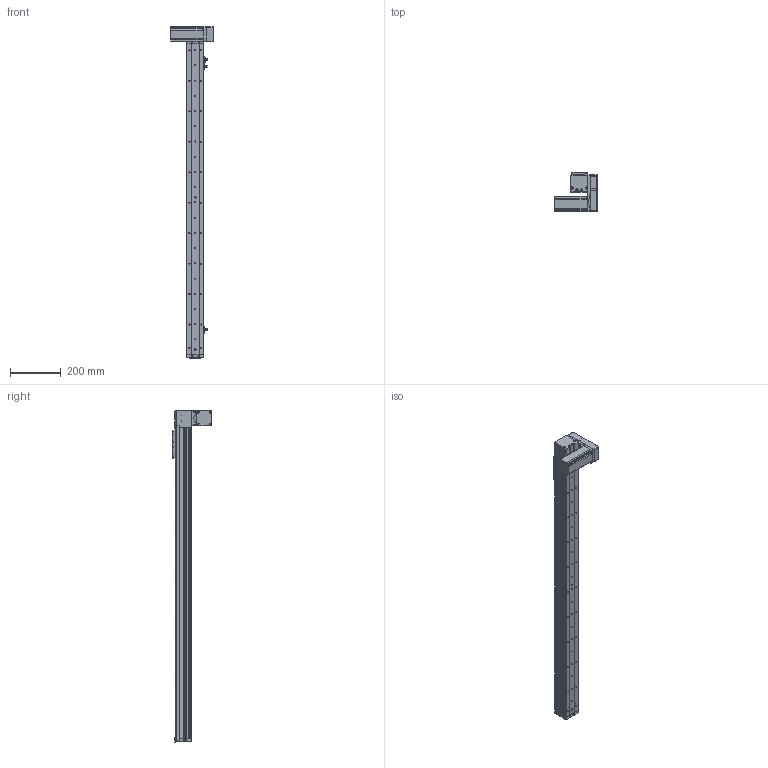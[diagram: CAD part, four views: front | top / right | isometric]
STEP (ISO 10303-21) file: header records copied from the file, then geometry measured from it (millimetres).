
FILE_DESCRIPTION (( 'STEP AP214' ), '1' );
FILE_NAME ('KSD68BS-S1050-MLD-CR.STEP', '2019-11-07T05:41:49', ( '微软用户' ), ( '微软中国' ), 'SwSTEP 2.0', 'SolidWorks 2014', '' );
FILE_SCHEMA (( 'AUTOMOTIVE_DESIGN' ));
Length unit declared in the file: millimetre
Products named in the file (14): 68遵裔啣揤啣1; 68宽单导轨全封闭丝杆传动安装板1防护罩; KSD68BS 1050行程侧板全封闭; 68宽单导轨全封闭同步带端板; 68单导轨全封闭同步带电机座左; 68单导轨全封闭同步带安装板; 悵誘欶奻狟殏; 68宽马达安装板连板上折同步带; 感应片68宽全封闭; U倰嫖萇EEㄜSX672; 台达ECMA－C20604AS伺服电机（400W); KSD68BS 1050行程底板全封闭; KSD68BS-S1050-MLD-CR; KSD68BS 1050行程盖板全封闭
Assembly tree (17 placements, depth 2):
  KSD68BS-S1050-MLD-CR
    KSD68BS 1050行程底板全封闭
    台达ECMA－C20604AS伺服电机（400W)
    U倰嫖萇EEㄜSX672  x3
    感应片68宽全封闭
    68宽马达安装板连板上折同步带
    悵誘欶奻狟殏
    68单导轨全封闭同步带安装板
    68单导轨全封闭同步带电机座左
    68宽单导轨全封闭同步带端板
    KSD68BS 1050行程侧板全封闭  x2
    68宽单导轨全封闭丝杆传动安装板1防护罩
    68遵裔啣揤啣1  x2
    KSD68BS 1050行程盖板全封闭
Bounding box: 167.2 x 155.5 x 1308.1 mm (x, y, z)
Volume: 2603168.6 mm3; surface area: 1004306.1 mm2
Topology: 18 solids, 18 shells, 1539 faces, 4389 edges, 2804 vertices
Faces by surface type: cylinder 738, plane 629, cone 172
Entity records: 49143 total; most frequent: CARTESIAN_POINT 8499, DIRECTION 7340, ORIENTED_EDGE 7022, EDGE_CURVE 3511, AXIS2_PLACEMENT_3D 2657, VERTEX_POINT 2302, LINE 2026, VECTOR 2026
